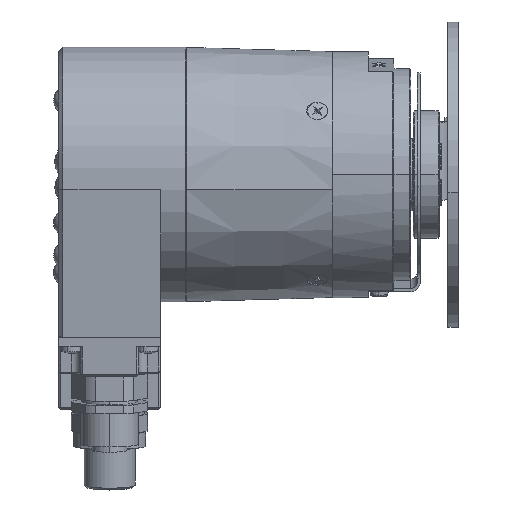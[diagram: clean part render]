
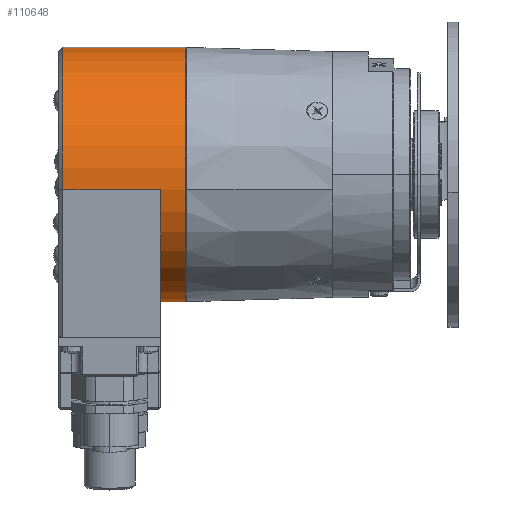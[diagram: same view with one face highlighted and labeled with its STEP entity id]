
A CAD part, top view. The second image highlights one B-rep face of the part: STEP entity #110648.
In plain terms, the highlighted cylindrical face has radius 30 mm (diameter 60 mm), a partial arc.
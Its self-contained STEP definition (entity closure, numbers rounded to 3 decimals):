
#41426 = DIRECTION ( 'NONE',  ( -1., 0., 0. ) ) ;
#41427 = VECTOR ( 'NONE', #41426, 1000. ) ;
#41428 = CARTESIAN_POINT ( 'NONE',  ( -26.295, 30.704, 3.325 ) ) ;
#41429 = LINE ( 'NONE', #41428, #41427 ) ;
#41432 = CARTESIAN_POINT ( 'NONE',  ( -55.295, 30.704, 3.325 ) ) ;
#41511 = CARTESIAN_POINT ( 'NONE',  ( -32.295, -28.849, -3.988 ) ) ;
#41514 = DIRECTION ( 'NONE',  ( -1., 0., 0. ) ) ;
#41516 = VECTOR ( 'NONE', #41514, 1000. ) ;
#41518 = CARTESIAN_POINT ( 'NONE',  ( -26.295, -28.849, -3.988 ) ) ;
#41520 = LINE ( 'NONE', #41518, #41516 ) ;
#41525 = CARTESIAN_POINT ( 'NONE',  ( -26.295, 30.704, 3.325 ) ) ;
#41528 = CARTESIAN_POINT ( 'NONE',  ( -26.295, -28.849, -3.988 ) ) ;
#44335 = DIRECTION ( 'NONE',  ( 0., 0.122, -0.993 ) ) ;
#44336 = DIRECTION ( 'NONE',  ( -1., 0., 0. ) ) ;
#44337 = CARTESIAN_POINT ( 'NONE',  ( -32.295, 0.928, -0.332 ) ) ;
#44338 = AXIS2_PLACEMENT_3D ( 'NONE', #44337, #44336, #44335 ) ;
#44339 = CIRCLE ( 'NONE', #44338, 30. ) ;
#44528 = CARTESIAN_POINT ( 'NONE',  ( -55.295, -2.728, 29.445 ) ) ;
#44529 = DIRECTION ( 'NONE',  ( 0., -0.993, -0.122 ) ) ;
#44530 = DIRECTION ( 'NONE',  ( 1., 0., 0. ) ) ;
#44531 = CARTESIAN_POINT ( 'NONE',  ( -55.295, 0.928, -0.332 ) ) ;
#44532 = AXIS2_PLACEMENT_3D ( 'NONE', #44531, #44530, #44529 ) ;
#44533 = CIRCLE ( 'NONE', #44532, 30. ) ;
#44540 = DIRECTION ( 'NONE',  ( 0., -0.993, -0.122 ) ) ;
#44541 = DIRECTION ( 'NONE',  ( 1., 0., 0. ) ) ;
#44542 = AXIS2_PLACEMENT_3D ( 'NONE', #44549, #44541, #44540 ) ;
#44543 = CIRCLE ( 'NONE', #44542, 30. ) ;
#44549 = CARTESIAN_POINT ( 'NONE',  ( -26.295, 0.928, -0.332 ) ) ;
#44566 = CARTESIAN_POINT ( 'NONE',  ( -32.295, -2.728, 29.445 ) ) ;
#44567 = DIRECTION ( 'NONE',  ( -1., 0., 0. ) ) ;
#44568 = VECTOR ( 'NONE', #44567, 1000. ) ;
#44569 = CARTESIAN_POINT ( 'NONE',  ( -32.295, -2.728, 29.445 ) ) ;
#44570 = LINE ( 'NONE', #44569, #44568 ) ;
#44610 = CARTESIAN_POINT ( 'NONE',  ( -26.295, 0.928, -0.332 ) ) ;
#44626 = FACE_OUTER_BOUND ( 'NONE', #110649, .T. ) ;
#44660 = DIRECTION ( 'NONE',  ( 0., 0.993, 0.122 ) ) ;
#44661 = DIRECTION ( 'NONE',  ( -1., 0., 0. ) ) ;
#44662 = AXIS2_PLACEMENT_3D ( 'NONE', #44610, #44661, #44660 ) ;
#44663 = CYLINDRICAL_SURFACE ( 'NONE', #44662, 30. ) ;
#109815 = ORIENTED_EDGE ( 'NONE', *, *, #110612, .F. ) ;
#109950 = VERTEX_POINT ( 'NONE', #41432 ) ;
#109952 = EDGE_CURVE ( 'NONE', #109968, #109950, #41429, .T. ) ;
#109967 = VERTEX_POINT ( 'NONE', #41528 ) ;
#109968 = VERTEX_POINT ( 'NONE', #41525 ) ;
#109970 = EDGE_CURVE ( 'NONE', #109967, #109971, #41520, .T. ) ;
#109971 = VERTEX_POINT ( 'NONE', #41511 ) ;
#110612 = EDGE_CURVE ( 'NONE', #109968, #109967, #44543, .T. ) ;
#110614 = ORIENTED_EDGE ( 'NONE', *, *, #109952, .T. ) ;
#110617 = ORIENTED_EDGE ( 'NONE', *, *, #110618, .T. ) ;
#110618 = EDGE_CURVE ( 'NONE', #109950, #110620, #44533, .T. ) ;
#110620 = VERTEX_POINT ( 'NONE', #44528 ) ;
#110623 = ORIENTED_EDGE ( 'NONE', *, *, #110624, .F. ) ;
#110624 = EDGE_CURVE ( 'NONE', #110626, #110620, #44570, .T. ) ;
#110626 = VERTEX_POINT ( 'NONE', #44566 ) ;
#110629 = ORIENTED_EDGE ( 'NONE', *, *, #110630, .F. ) ;
#110630 = EDGE_CURVE ( 'NONE', #109971, #110626, #44339, .T. ) ;
#110648 = ADVANCED_FACE ( 'NONE', ( #44626 ), #44663, .T. ) ;
#110649 = EDGE_LOOP ( 'NONE', ( #110650, #109815, #110614, #110617, #110623, #110629 ) ) ;
#110650 = ORIENTED_EDGE ( 'NONE', *, *, #109970, .F. ) ;
